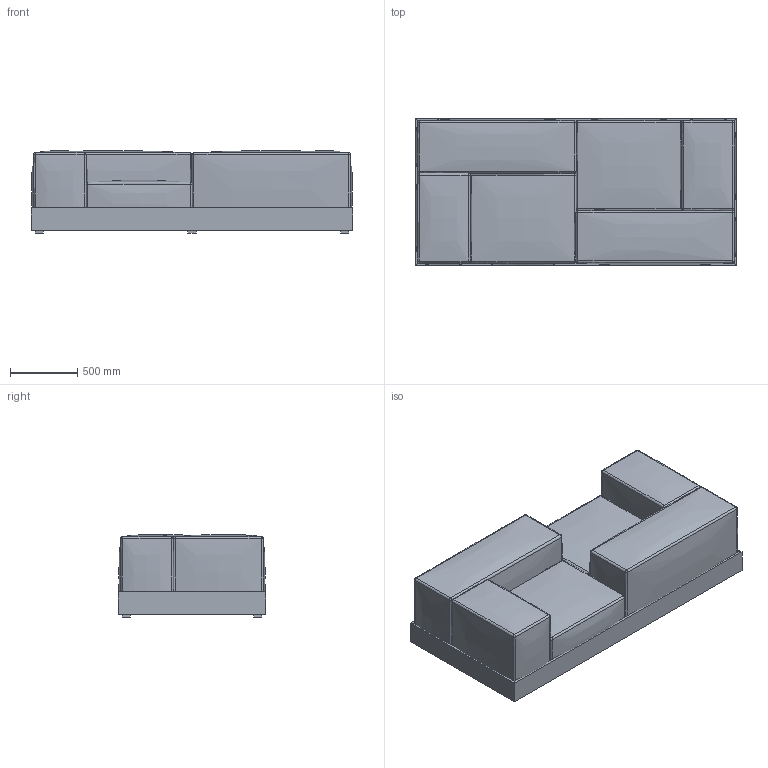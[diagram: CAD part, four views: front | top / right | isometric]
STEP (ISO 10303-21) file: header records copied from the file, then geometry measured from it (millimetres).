
FILE_DESCRIPTION(/* description */ (''),/* implementation_level */ '2;1');
FILE_NAME(/* name */ 'Polp1 240 brc vis a vis.step',/* time_stamp */ '2024-01-07T10:08:09+01:00',/* author */ (''),/* organization */ (''),/* preprocessor_version */ 'ST-DEVELOPER v20',/* originating_system */ 'Autodesk Translation Framework v12.14.0.127',/* authorisation */ '');
FILE_SCHEMA (('AUTOMOTIVE_DESIGN { 1 0 10303 214 3 1 1 }'));
Length unit declared in the file: millimetre
Products named in the file (7): Polp1 240 brc vis a vis; Component1; Component2; Component3; Component4; Component9; Component10
Assembly tree (6 placements, depth 2):
  Polp1 240 brc vis a vis
    Component1
    Component2
    Component3
    Component4
    Component9
    Component10
Bounding box: 2400 x 1100 x 615 mm (x, y, z)
Volume: 1268726920.2 mm3; surface area: 20591146.2 mm2
Topology: 22 solids, 22 shells, 252 faces, 480 edges, 272 vertices
Faces by surface type: bspline 102, plane 102, sphere 48
Entity records: 18793 total; most frequent: CARTESIAN_POINT 14049, ORIENTED_EDGE 960, DIRECTION 806, EDGE_CURVE 480, AXIS2_PLACEMENT_3D 307, VERTEX_POINT 272, FACE_OUTER_BOUND 252, EDGE_LOOP 252
